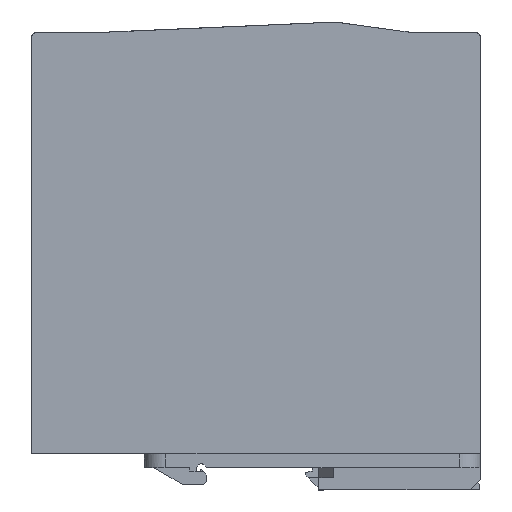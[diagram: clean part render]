
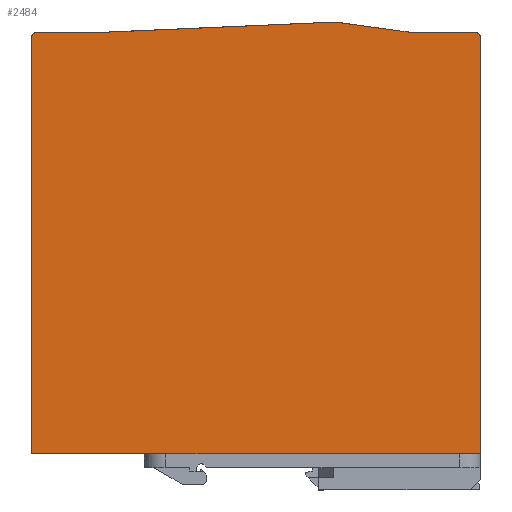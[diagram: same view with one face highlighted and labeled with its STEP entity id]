
A CAD part, left-side view. The second image highlights one B-rep face of the part: STEP entity #2484.
In plain terms, the highlighted planar face has unit normal (-1, 0, 0).
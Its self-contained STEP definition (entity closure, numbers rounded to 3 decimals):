
#2416=AXIS2_PLACEMENT_3D('Circle Axis2P3D',#2414,#2415,$) ;
#2429=AXIS2_PLACEMENT_3D('Plane Axis2P3D',#2426,#2427,#2428) ;
#2461=AXIS2_PLACEMENT_3D('Circle Axis2P3D',#2459,#2460,$) ;
#40=CARTESIAN_POINT('Vertex',(0.,0.,10.5)) ;
#56=CARTESIAN_POINT('Vertex',(0.,0.,131.)) ;
#59=CARTESIAN_POINT('Line Origine',(0.,0.,70.75)) ;
#2281=CARTESIAN_POINT('Line Origine',(0.,3.191,10.5)) ;
#2285=CARTESIAN_POINT('Vertex',(0.,6.382,10.5)) ;
#2288=CARTESIAN_POINT('Line Origine',(0.,63.667,10.5)) ;
#2292=CARTESIAN_POINT('Vertex',(0.,120.951,10.5)) ;
#2295=CARTESIAN_POINT('Line Origine',(0.,125.475,10.5)) ;
#2299=CARTESIAN_POINT('Vertex',(0.,130.,10.5)) ;
#2411=CARTESIAN_POINT('Vertex',(0.,1.5,132.5)) ;
#2414=CARTESIAN_POINT('Axis2P3D Location',(0.,1.5,131.)) ;
#2426=CARTESIAN_POINT('Axis2P3D Location',(0.,65.,10.5)) ;
#2431=CARTESIAN_POINT('Line Origine',(0.,10.8,132.5)) ;
#2435=CARTESIAN_POINT('Vertex',(0.,20.1,132.5)) ;
#2438=CARTESIAN_POINT('Line Origine',(0.,31.05,134.)) ;
#2442=CARTESIAN_POINT('Vertex',(0.,42.,135.5)) ;
#2445=CARTESIAN_POINT('Line Origine',(0.,75.95,134.)) ;
#2449=CARTESIAN_POINT('Vertex',(0.,109.9,132.5)) ;
#2452=CARTESIAN_POINT('Line Origine',(0.,119.2,132.5)) ;
#2456=CARTESIAN_POINT('Vertex',(0.,128.5,132.5)) ;
#2459=CARTESIAN_POINT('Axis2P3D Location',(0.,128.5,131.)) ;
#2463=CARTESIAN_POINT('Vertex',(0.,130.,131.)) ;
#2466=CARTESIAN_POINT('Line Origine',(0.,130.,70.75)) ;
#60=DIRECTION('Vector Direction',(0.,0.,-1.)) ;
#2282=DIRECTION('Vector Direction',(0.,-1.,0.)) ;
#2289=DIRECTION('Vector Direction',(0.,1.,0.)) ;
#2296=DIRECTION('Vector Direction',(0.,1.,0.)) ;
#2415=DIRECTION('Axis2P3D Direction',(1.,0.,0.)) ;
#2427=DIRECTION('Axis2P3D Direction',(-1.,0.,0.)) ;
#2428=DIRECTION('Axis2P3D XDirection',(0.,-1.,0.)) ;
#2432=DIRECTION('Vector Direction',(0.,1.,0.)) ;
#2439=DIRECTION('Vector Direction',(0.,0.991,0.136)) ;
#2446=DIRECTION('Vector Direction',(0.,0.999,-0.044)) ;
#2453=DIRECTION('Vector Direction',(0.,1.,0.)) ;
#2460=DIRECTION('Axis2P3D Direction',(-1.,0.,0.)) ;
#2467=DIRECTION('Vector Direction',(0.,0.,-1.)) ;
#61=VECTOR('Line Direction',#60,1.) ;
#2283=VECTOR('Line Direction',#2282,1.) ;
#2290=VECTOR('Line Direction',#2289,1.) ;
#2297=VECTOR('Line Direction',#2296,1.) ;
#2433=VECTOR('Line Direction',#2432,1.) ;
#2440=VECTOR('Line Direction',#2439,1.) ;
#2447=VECTOR('Line Direction',#2446,1.) ;
#2454=VECTOR('Line Direction',#2453,1.) ;
#2468=VECTOR('Line Direction',#2467,1.) ;
#2472=ORIENTED_EDGE('',*,*,#63,.T.) ;
#2473=ORIENTED_EDGE('',*,*,#2418,.T.) ;
#2474=ORIENTED_EDGE('',*,*,#2437,.T.) ;
#2475=ORIENTED_EDGE('',*,*,#2444,.T.) ;
#2476=ORIENTED_EDGE('',*,*,#2451,.T.) ;
#2477=ORIENTED_EDGE('',*,*,#2458,.T.) ;
#2478=ORIENTED_EDGE('',*,*,#2465,.T.) ;
#2479=ORIENTED_EDGE('',*,*,#2470,.T.) ;
#2480=ORIENTED_EDGE('',*,*,#2301,.T.) ;
#2481=ORIENTED_EDGE('',*,*,#2294,.T.) ;
#2482=ORIENTED_EDGE('',*,*,#2287,.T.) ;
#2484=ADVANCED_FACE('480W_ASM_AllCATPart.1\\Hauptk\X2\00F6\X0\rper',(#2483),#2430,.T.) ;
#2417=CIRCLE('generated circle',#2416,1.5) ;
#2462=CIRCLE('generated circle',#2461,1.5) ;
#63=EDGE_CURVE('',#41,#57,#62,.F.) ;
#2287=EDGE_CURVE('',#2286,#41,#2284,.T.) ;
#2294=EDGE_CURVE('',#2293,#2286,#2291,.F.) ;
#2301=EDGE_CURVE('',#2300,#2293,#2298,.F.) ;
#2418=EDGE_CURVE('',#57,#2412,#2417,.F.) ;
#2437=EDGE_CURVE('',#2412,#2436,#2434,.T.) ;
#2444=EDGE_CURVE('',#2436,#2443,#2441,.T.) ;
#2451=EDGE_CURVE('',#2443,#2450,#2448,.T.) ;
#2458=EDGE_CURVE('',#2450,#2457,#2455,.T.) ;
#2465=EDGE_CURVE('',#2457,#2464,#2462,.T.) ;
#2470=EDGE_CURVE('',#2464,#2300,#2469,.T.) ;
#2471=EDGE_LOOP('',(#2472,#2473,#2474,#2475,#2476,#2477,#2478,#2479,#2480,#2481,#2482)) ;
#2483=FACE_OUTER_BOUND('',#2471,.T.) ;
#62=LINE('Line',#59,#61) ;
#2284=LINE('Line',#2281,#2283) ;
#2291=LINE('Line',#2288,#2290) ;
#2298=LINE('Line',#2295,#2297) ;
#2434=LINE('Line',#2431,#2433) ;
#2441=LINE('Line',#2438,#2440) ;
#2448=LINE('Line',#2445,#2447) ;
#2455=LINE('Line',#2452,#2454) ;
#2469=LINE('Line',#2466,#2468) ;
#2430=PLANE('',#2429) ;
#41=VERTEX_POINT('',#40) ;
#57=VERTEX_POINT('',#56) ;
#2286=VERTEX_POINT('',#2285) ;
#2293=VERTEX_POINT('',#2292) ;
#2300=VERTEX_POINT('',#2299) ;
#2412=VERTEX_POINT('',#2411) ;
#2436=VERTEX_POINT('',#2435) ;
#2443=VERTEX_POINT('',#2442) ;
#2450=VERTEX_POINT('',#2449) ;
#2457=VERTEX_POINT('',#2456) ;
#2464=VERTEX_POINT('',#2463) ;
